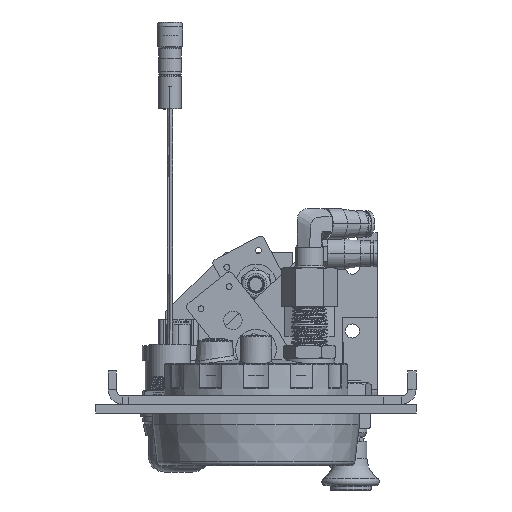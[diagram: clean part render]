
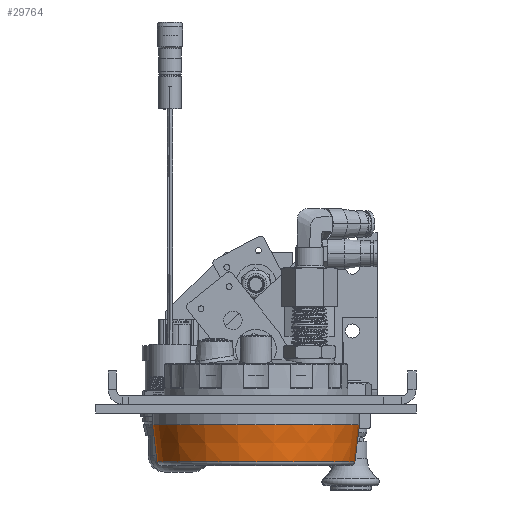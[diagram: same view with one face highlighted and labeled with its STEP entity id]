
A CAD part, left-side view. The second image highlights one B-rep face of the part: STEP entity #29764.
In plain terms, the highlighted conical face has half-angle 6.843 degrees and reference radius 38.1 mm.
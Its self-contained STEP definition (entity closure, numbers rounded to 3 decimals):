
#1230 = EDGE_CURVE ( 'NONE', #95187, #83901, #75533, .T. ) ;
#3964 = VECTOR ( 'NONE', #29081, 1000. ) ;
#13054 = CARTESIAN_POINT ( 'NONE',  ( -123.704, 69.063, -23.749 ) ) ;
#14659 = DIRECTION ( 'NONE',  ( 0., -1., 0. ) ) ;
#20674 = FACE_OUTER_BOUND ( 'NONE', #44829, .T. ) ;
#20911 = CARTESIAN_POINT ( 'NONE',  ( -123.704, 69.063, -7.874 ) ) ;
#24733 = DIRECTION ( 'NONE',  ( 0., 0.119, 0.993 ) ) ;
#28120 = CARTESIAN_POINT ( 'NONE',  ( -123.704, 30.793, -22.339 ) ) ;
#29081 = DIRECTION ( 'NONE',  ( 0., -0.119, 0.993 ) ) ;
#29764 = ADVANCED_FACE ( 'NONE', ( #20674 ), #58627, .T. ) ;
#30287 = DIRECTION ( 'NONE',  ( 0., 1., 0. ) ) ;
#33087 = DIRECTION ( 'NONE',  ( 0., 0., 1. ) ) ;
#44829 = EDGE_LOOP ( 'NONE', ( #120685, #93874, #103057, #102717 ) ) ;
#45259 = VERTEX_POINT ( 'NONE', #48249 ) ;
#48249 = CARTESIAN_POINT ( 'NONE',  ( -123.704, 109.068, -7.874 ) ) ;
#48282 = CARTESIAN_POINT ( 'NONE',  ( -123.704, 30.963, -23.749 ) ) ;
#48573 = CIRCLE ( 'NONE', #109224, 38.269 ) ;
#48585 = DIRECTION ( 'NONE',  ( 0., 0., 1. ) ) ;
#51604 = CIRCLE ( 'NONE', #90936, 40.005 ) ;
#54043 = VECTOR ( 'NONE', #24733, 1000. ) ;
#58627 = CONICAL_SURFACE ( 'NONE', #93659, 38.1, 0.119 ) ;
#61868 = CARTESIAN_POINT ( 'NONE',  ( -123.704, 107.163, -23.749 ) ) ;
#73845 = CARTESIAN_POINT ( 'NONE',  ( -123.704, 29.058, -7.874 ) ) ;
#75533 = LINE ( 'NONE', #48282, #3964 ) ;
#83018 = EDGE_CURVE ( 'NONE', #101372, #95187, #48573, .T. ) ;
#83901 = VERTEX_POINT ( 'NONE', #73845 ) ;
#84211 = EDGE_CURVE ( 'NONE', #101372, #45259, #103710, .T. ) ;
#86171 = DIRECTION ( 'NONE',  ( 0., 0., -1. ) ) ;
#90936 = AXIS2_PLACEMENT_3D ( 'NONE', #20911, #86171, #30287 ) ;
#93550 = CARTESIAN_POINT ( 'NONE',  ( -123.704, 107.332, -22.339 ) ) ;
#93659 = AXIS2_PLACEMENT_3D ( 'NONE', #13054, #33087, #14659 ) ;
#93874 = ORIENTED_EDGE ( 'NONE', *, *, #83018, .T. ) ;
#95187 = VERTEX_POINT ( 'NONE', #28120 ) ;
#101372 = VERTEX_POINT ( 'NONE', #93550 ) ;
#102717 = ORIENTED_EDGE ( 'NONE', *, *, #109444, .T. ) ;
#103057 = ORIENTED_EDGE ( 'NONE', *, *, #1230, .T. ) ;
#103710 = LINE ( 'NONE', #61868, #54043 ) ;
#104584 = CARTESIAN_POINT ( 'NONE',  ( -123.704, 69.063, -22.339 ) ) ;
#109224 = AXIS2_PLACEMENT_3D ( 'NONE', #104584, #48585, #113956 ) ;
#109444 = EDGE_CURVE ( 'NONE', #83901, #45259, #51604, .T. ) ;
#113956 = DIRECTION ( 'NONE',  ( 0., 1., 0. ) ) ;
#120685 = ORIENTED_EDGE ( 'NONE', *, *, #84211, .F. ) ;
